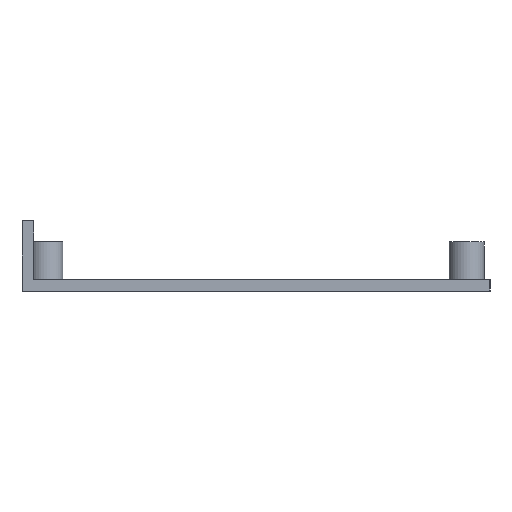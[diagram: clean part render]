
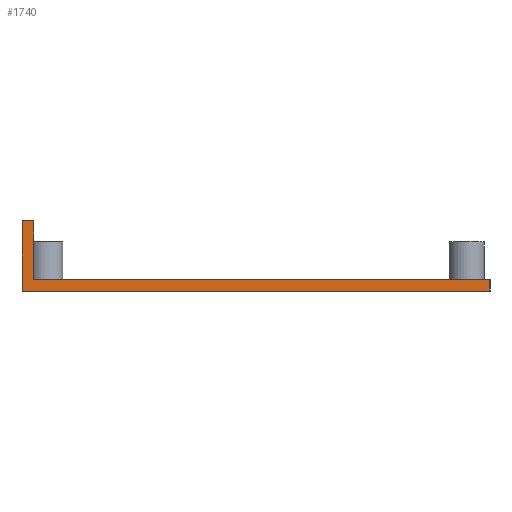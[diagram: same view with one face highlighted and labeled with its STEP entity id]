
A CAD part, left-side view. The second image highlights one B-rep face of the part: STEP entity #1740.
In plain terms, the highlighted planar face has unit normal (-1, 0, 0).
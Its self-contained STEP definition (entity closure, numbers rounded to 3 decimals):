
#21 = EDGE_CURVE('',#22,#24,#26,.T.);
#22 = VERTEX_POINT('',#23);
#23 = CARTESIAN_POINT('',(-75.,-50.,0.));
#24 = VERTEX_POINT('',#25);
#25 = CARTESIAN_POINT('',(-75.,-50.,2.5));
#26 = SURFACE_CURVE('',#27,(#31,#43),.PCURVE_S1.);
#27 = LINE('',#28,#29);
#28 = CARTESIAN_POINT('',(-75.,-50.,0.));
#29 = VECTOR('',#30,1.);
#30 = DIRECTION('',(0.,0.,1.));
#31 = PCURVE('',#32,#37);
#32 = PLANE('',#33);
#33 = AXIS2_PLACEMENT_3D('',#34,#35,#36);
#34 = CARTESIAN_POINT('',(-75.,-50.,0.));
#35 = DIRECTION('',(0.,1.,0.));
#36 = DIRECTION('',(1.,0.,0.));
#37 = DEFINITIONAL_REPRESENTATION('',(#38),#42);
#38 = LINE('',#39,#40);
#39 = CARTESIAN_POINT('',(0.,0.));
#40 = VECTOR('',#41,1.);
#41 = DIRECTION('',(0.,-1.));
#42 = ( GEOMETRIC_REPRESENTATION_CONTEXT(2) 
PARAMETRIC_REPRESENTATION_CONTEXT() REPRESENTATION_CONTEXT('2D SPACE',''
  ) );
#43 = PCURVE('',#44,#49);
#44 = PLANE('',#45);
#45 = AXIS2_PLACEMENT_3D('',#46,#47,#48);
#46 = CARTESIAN_POINT('',(-75.,50.,0.));
#47 = DIRECTION('',(1.,0.,-0.));
#48 = DIRECTION('',(0.,-1.,0.));
#49 = DEFINITIONAL_REPRESENTATION('',(#50),#54);
#50 = LINE('',#51,#52);
#51 = CARTESIAN_POINT('',(100.,0.));
#52 = VECTOR('',#53,1.);
#53 = DIRECTION('',(0.,-1.));
#54 = ( GEOMETRIC_REPRESENTATION_CONTEXT(2) 
PARAMETRIC_REPRESENTATION_CONTEXT() REPRESENTATION_CONTEXT('2D SPACE',''
  ) );
#72 = PLANE('',#73);
#73 = AXIS2_PLACEMENT_3D('',#74,#75,#76);
#74 = CARTESIAN_POINT('',(0.,0.,2.5));
#75 = DIRECTION('',(0.,0.,1.));
#76 = DIRECTION('',(1.,0.,-0.));
#126 = PLANE('',#127);
#127 = AXIS2_PLACEMENT_3D('',#128,#129,#130);
#128 = CARTESIAN_POINT('',(0.,0.,0.));
#129 = DIRECTION('',(0.,0.,1.));
#130 = DIRECTION('',(1.,0.,-0.));
#144 = VERTEX_POINT('',#145);
#145 = CARTESIAN_POINT('',(-75.,47.5,2.5));
#158 = PLANE('',#159);
#159 = AXIS2_PLACEMENT_3D('',#160,#161,#162);
#160 = CARTESIAN_POINT('',(-73.75,47.5,7.5));
#161 = DIRECTION('',(0.,1.,0.));
#162 = DIRECTION('',(0.,-0.,1.));
#169 = EDGE_CURVE('',#144,#24,#170,.T.);
#170 = SURFACE_CURVE('',#171,(#175,#182),.PCURVE_S1.);
#171 = LINE('',#172,#173);
#172 = CARTESIAN_POINT('',(-75.,50.,2.5));
#173 = VECTOR('',#174,1.);
#174 = DIRECTION('',(0.,-1.,0.));
#175 = PCURVE('',#72,#176);
#176 = DEFINITIONAL_REPRESENTATION('',(#177),#181);
#177 = LINE('',#178,#179);
#178 = CARTESIAN_POINT('',(-75.,50.));
#179 = VECTOR('',#180,1.);
#180 = DIRECTION('',(0.,-1.));
#181 = ( GEOMETRIC_REPRESENTATION_CONTEXT(2) 
PARAMETRIC_REPRESENTATION_CONTEXT() REPRESENTATION_CONTEXT('2D SPACE',''
  ) );
#182 = PCURVE('',#44,#183);
#183 = DEFINITIONAL_REPRESENTATION('',(#184),#188);
#184 = LINE('',#185,#186);
#185 = CARTESIAN_POINT('',(0.,-2.5));
#186 = VECTOR('',#187,1.);
#187 = DIRECTION('',(1.,0.));
#188 = ( GEOMETRIC_REPRESENTATION_CONTEXT(2) 
PARAMETRIC_REPRESENTATION_CONTEXT() REPRESENTATION_CONTEXT('2D SPACE',''
  ) );
#315 = PLANE('',#316);
#316 = AXIS2_PLACEMENT_3D('',#317,#318,#319);
#317 = CARTESIAN_POINT('',(75.,50.,0.));
#318 = DIRECTION('',(0.,-1.,0.));
#319 = DIRECTION('',(-1.,0.,0.));
#1081 = PLANE('',#1082);
#1082 = AXIS2_PLACEMENT_3D('',#1083,#1084,#1085);
#1083 = CARTESIAN_POINT('',(-75.,50.,15.));
#1084 = DIRECTION('',(-0.,0.,1.));
#1085 = DIRECTION('',(1.,0.,0.));
#1120 = EDGE_CURVE('',#1121,#1123,#1125,.T.);
#1121 = VERTEX_POINT('',#1122);
#1122 = CARTESIAN_POINT('',(-75.,50.,15.));
#1123 = VERTEX_POINT('',#1124);
#1124 = CARTESIAN_POINT('',(-75.,47.5,15.));
#1125 = SURFACE_CURVE('',#1126,(#1130,#1137),.PCURVE_S1.);
#1126 = LINE('',#1127,#1128);
#1127 = CARTESIAN_POINT('',(-75.,50.,15.));
#1128 = VECTOR('',#1129,1.);
#1129 = DIRECTION('',(0.,-1.,0.));
#1130 = PCURVE('',#1081,#1131);
#1131 = DEFINITIONAL_REPRESENTATION('',(#1132),#1136);
#1132 = LINE('',#1133,#1134);
#1133 = CARTESIAN_POINT('',(0.,0.));
#1134 = VECTOR('',#1135,1.);
#1135 = DIRECTION('',(0.,-1.));
#1136 = ( GEOMETRIC_REPRESENTATION_CONTEXT(2) 
PARAMETRIC_REPRESENTATION_CONTEXT() REPRESENTATION_CONTEXT('2D SPACE',''
  ) );
#1137 = PCURVE('',#44,#1138);
#1138 = DEFINITIONAL_REPRESENTATION('',(#1139),#1143);
#1139 = LINE('',#1140,#1141);
#1140 = CARTESIAN_POINT('',(0.,-15.));
#1141 = VECTOR('',#1142,1.);
#1142 = DIRECTION('',(1.,0.));
#1143 = ( GEOMETRIC_REPRESENTATION_CONTEXT(2) 
PARAMETRIC_REPRESENTATION_CONTEXT() REPRESENTATION_CONTEXT('2D SPACE',''
  ) );
#1192 = VERTEX_POINT('',#1193);
#1193 = CARTESIAN_POINT('',(-75.,50.,0.));
#1291 = EDGE_CURVE('',#1121,#1192,#1292,.T.);
#1292 = SURFACE_CURVE('',#1293,(#1297,#1304),.PCURVE_S1.);
#1293 = LINE('',#1294,#1295);
#1294 = CARTESIAN_POINT('',(-75.,50.,15.));
#1295 = VECTOR('',#1296,1.);
#1296 = DIRECTION('',(0.,0.,-1.));
#1297 = PCURVE('',#315,#1298);
#1298 = DEFINITIONAL_REPRESENTATION('',(#1299),#1303);
#1299 = LINE('',#1300,#1301);
#1300 = CARTESIAN_POINT('',(150.,-15.));
#1301 = VECTOR('',#1302,1.);
#1302 = DIRECTION('',(0.,1.));
#1303 = ( GEOMETRIC_REPRESENTATION_CONTEXT(2) 
PARAMETRIC_REPRESENTATION_CONTEXT() REPRESENTATION_CONTEXT('2D SPACE',''
  ) );
#1304 = PCURVE('',#44,#1305);
#1305 = DEFINITIONAL_REPRESENTATION('',(#1306),#1310);
#1306 = LINE('',#1307,#1308);
#1307 = CARTESIAN_POINT('',(0.,-15.));
#1308 = VECTOR('',#1309,1.);
#1309 = DIRECTION('',(0.,1.));
#1310 = ( GEOMETRIC_REPRESENTATION_CONTEXT(2) 
PARAMETRIC_REPRESENTATION_CONTEXT() REPRESENTATION_CONTEXT('2D SPACE',''
  ) );
#1660 = EDGE_CURVE('',#144,#1123,#1661,.T.);
#1661 = SURFACE_CURVE('',#1662,(#1666,#1673),.PCURVE_S1.);
#1662 = LINE('',#1663,#1664);
#1663 = CARTESIAN_POINT('',(-75.,47.5,0.));
#1664 = VECTOR('',#1665,1.);
#1665 = DIRECTION('',(0.,0.,1.));
#1666 = PCURVE('',#158,#1667);
#1667 = DEFINITIONAL_REPRESENTATION('',(#1668),#1672);
#1668 = LINE('',#1669,#1670);
#1669 = CARTESIAN_POINT('',(-7.5,-1.25));
#1670 = VECTOR('',#1671,1.);
#1671 = DIRECTION('',(1.,0.));
#1672 = ( GEOMETRIC_REPRESENTATION_CONTEXT(2) 
PARAMETRIC_REPRESENTATION_CONTEXT() REPRESENTATION_CONTEXT('2D SPACE',''
  ) );
#1673 = PCURVE('',#44,#1674);
#1674 = DEFINITIONAL_REPRESENTATION('',(#1675),#1679);
#1675 = LINE('',#1676,#1677);
#1676 = CARTESIAN_POINT('',(2.5,0.));
#1677 = VECTOR('',#1678,1.);
#1678 = DIRECTION('',(0.,-1.));
#1679 = ( GEOMETRIC_REPRESENTATION_CONTEXT(2) 
PARAMETRIC_REPRESENTATION_CONTEXT() REPRESENTATION_CONTEXT('2D SPACE',''
  ) );
#1688 = EDGE_CURVE('',#1192,#22,#1689,.T.);
#1689 = SURFACE_CURVE('',#1690,(#1694,#1701),.PCURVE_S1.);
#1690 = LINE('',#1691,#1692);
#1691 = CARTESIAN_POINT('',(-75.,50.,0.));
#1692 = VECTOR('',#1693,1.);
#1693 = DIRECTION('',(0.,-1.,0.));
#1694 = PCURVE('',#126,#1695);
#1695 = DEFINITIONAL_REPRESENTATION('',(#1696),#1700);
#1696 = LINE('',#1697,#1698);
#1697 = CARTESIAN_POINT('',(-75.,50.));
#1698 = VECTOR('',#1699,1.);
#1699 = DIRECTION('',(0.,-1.));
#1700 = ( GEOMETRIC_REPRESENTATION_CONTEXT(2) 
PARAMETRIC_REPRESENTATION_CONTEXT() REPRESENTATION_CONTEXT('2D SPACE',''
  ) );
#1701 = PCURVE('',#44,#1702);
#1702 = DEFINITIONAL_REPRESENTATION('',(#1703),#1707);
#1703 = LINE('',#1704,#1705);
#1704 = CARTESIAN_POINT('',(0.,0.));
#1705 = VECTOR('',#1706,1.);
#1706 = DIRECTION('',(1.,0.));
#1707 = ( GEOMETRIC_REPRESENTATION_CONTEXT(2) 
PARAMETRIC_REPRESENTATION_CONTEXT() REPRESENTATION_CONTEXT('2D SPACE',''
  ) );
#1740 = ADVANCED_FACE('',(#1741),#44,.F.);
#1741 = FACE_BOUND('',#1742,.F.);
#1742 = EDGE_LOOP('',(#1743,#1744,#1745,#1746,#1747,#1748));
#1743 = ORIENTED_EDGE('',*,*,#1688,.F.);
#1744 = ORIENTED_EDGE('',*,*,#1291,.F.);
#1745 = ORIENTED_EDGE('',*,*,#1120,.T.);
#1746 = ORIENTED_EDGE('',*,*,#1660,.F.);
#1747 = ORIENTED_EDGE('',*,*,#169,.T.);
#1748 = ORIENTED_EDGE('',*,*,#21,.F.);
